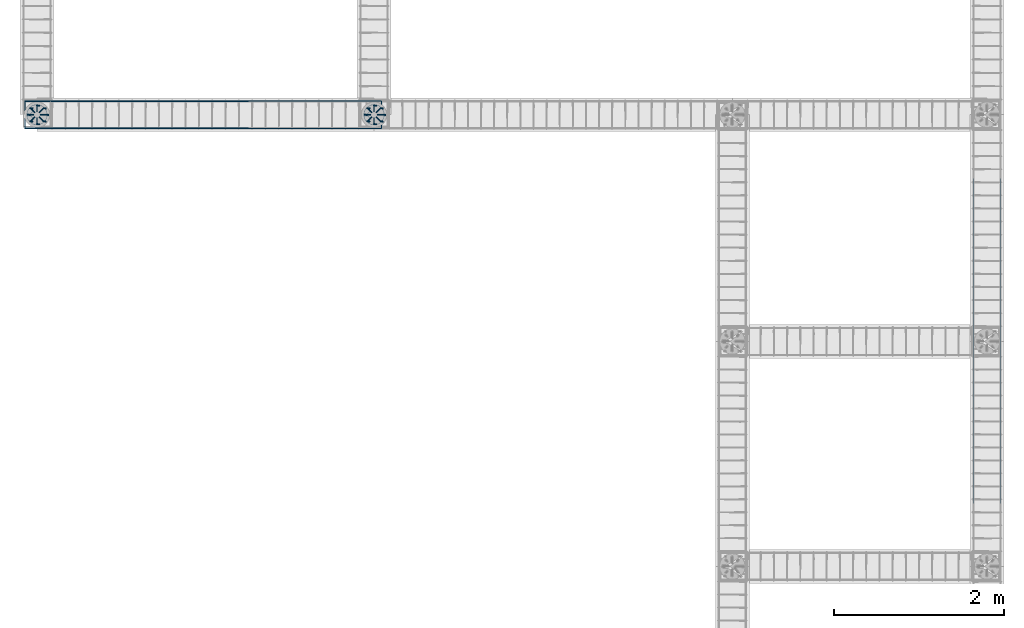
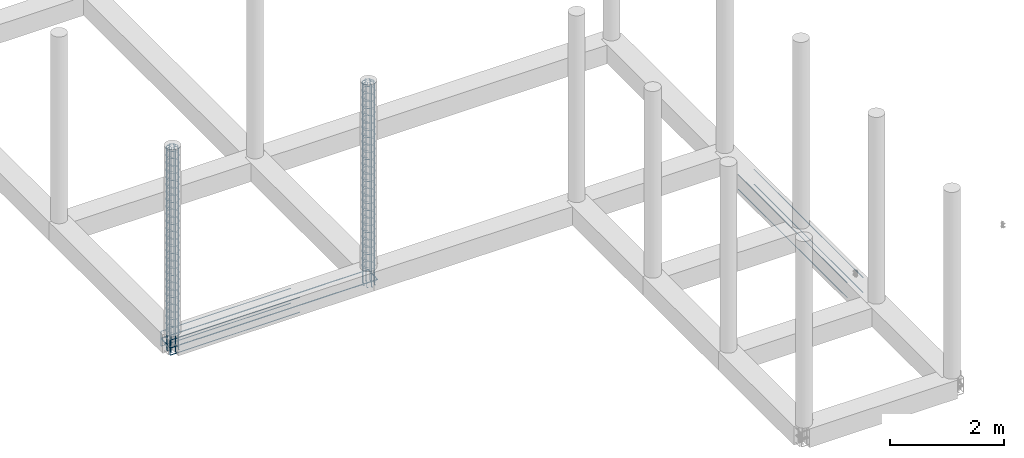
# One storey, part 9 of 20: 9 reinforcing bars.
"""IFC4 building model written with IfcOpenShell, lengths in metres."""

from ifc_helpers import new_model, entity, si_unit, origin_with_axes, place, context, project, spatial, source, transform, mapped, element, save


model = new_model("IFC4")

# Units and contexts
model_context = context("Model", 3, precision=1e-05, world=origin_with_axes())
ifc_project = project(units=[si_unit("LENGTHUNIT", "METRE"), si_unit("AREAUNIT", "SQUARE_METRE"), si_unit("VOLUMEUNIT", "CUBIC_METRE"), si_unit("MASSUNIT", "GRAM", prefix="KILO"), si_unit("TIMEUNIT", "SECOND"), si_unit("PLANEANGLEUNIT", "RADIAN"), si_unit("SOLIDANGLEUNIT", "STERADIAN"), si_unit("THERMODYNAMICTEMPERATUREUNIT", "DEGREE_CELSIUS")], contexts=[model_context])

# Site, building, storey
placement_1 = place(None, origin_with_axes())
site = spatial("IfcSite", under=ifc_project, at=placement_1, Name="Italia", CompositionType="ELEMENT")
building = spatial("IfcBuilding", under=site, at=placement_1, Name="Tettoia", CompositionType="ELEMENT")
storey = spatial("IfcBuildingStorey", under=building, at=placement_1, Name="Storey 0", CompositionType="ELEMENT", Elevation=0.0)

# Reinforcing bars
shared_shape_1 = source(origin_with_axes(), model_context, "Body", "AdvancedSweptSolid", [
    entity("IfcSweptDiskSolid", entity("IfcIndexedPolyCurve", entity("IfcCartesianPointList3D", [[3.99102, 9.96605, -0.375], [3.97714, 9.96787, -0.375], [3.97097, 9.96869, -0.373761], [3.96573, 9.96938, -0.370231], [3.96223, 9.96984, -0.364949], [3.961, 9.97, -0.358718], [3.961, 9.97, 0.5725]]), [entity("IfcLineIndex", [1, 2]), entity("IfcLineIndex", [2, 3]), entity("IfcLineIndex", [3, 4]), entity("IfcLineIndex", [4, 5]), entity("IfcLineIndex", [5, 6]), entity("IfcLineIndex", [6, 7])], False), 0.007),
])
placement_2 = place(placement_1, origin_with_axes())
reinforcing_bar_1_placement = place(placement_2, origin_with_axes())
element("IfcReinforcingBar", 1, at=reinforcing_bar_1_placement, inside=storey, BarLength=0.97063, CrossSectionArea=0.00015394, NominalDiameter=0.014, context=model_context, shape_type="MappedRepresentation", body=[
    mapped(shared_shape_1, transform((0.0319252, -0.077075, 0.0), x_axis=(1.0, 0.0, 0.0), y_axis=(0.0, 1.0, 0.0), z_axis=(0.0, 0.0, 1.0), scale=1.0)),
    mapped(shared_shape_1, transform((0.108955, -0.108981, 0.0), x_axis=(1.0, 0.0, 0.0), y_axis=(0.0, 1.0, 0.0), z_axis=(0.0, 0.0, 1.0), scale=1.0)),
    mapped(shared_shape_1, transform((0.186074, -0.077075, 0.0), x_axis=(1.0, 0.0, 0.0), y_axis=(0.0, 1.0, 0.0), z_axis=(0.0, 0.0, 1.0), scale=1.0)),
    mapped(shared_shape_1, transform((0.217999, 0.0, 0.0), x_axis=(1.0, 0.0, 0.0), y_axis=(0.0, 1.0, 0.0), z_axis=(0.0, 0.0, 1.0), scale=1.0)),
    mapped(shared_shape_1, transform((0.0319252, 0.0770741, 0.0), x_axis=(1.0, 0.0, 0.0), y_axis=(0.0, 1.0, 0.0), z_axis=(0.0, 0.0, 1.0), scale=1.0)),
    mapped(shared_shape_1, transform((0.0, 0.0, 0.0), x_axis=(1.0, 0.0, 0.0), y_axis=(0.0, 1.0, 0.0), z_axis=(0.0, 0.0, 1.0), scale=1.0)),
    mapped(shared_shape_1, transform((0.186074, 0.0770741, 0.0), x_axis=(1.0, 0.0, 0.0), y_axis=(0.0, 1.0, 0.0), z_axis=(0.0, 0.0, 1.0), scale=1.0)),
    mapped(shared_shape_1, transform((0.109, 0.108999, -1.03414e-05), x_axis=(1.0, 0.0, 0.0), y_axis=(0.0, 1.0, 0.0), z_axis=(0.0, 0.0, 1.0), scale=1.0)),
])
shared_shape_2 = source(origin_with_axes(), model_context, "Body", "AdvancedSweptSolid", [
    entity("IfcSweptDiskSolid", entity("IfcIndexedPolyCurve", entity("IfcCartesianPointList3D", [[3.961, 9.97, 0.0], [3.961, 9.97, 3.94], [3.96366, 9.97, 3.95339], [3.97125, 9.97, 3.96475], [3.98261, 9.97, 3.97234], [3.996, 9.97, 3.975], [4.036, 9.97, 3.975]]), [entity("IfcLineIndex", [1, 2]), entity("IfcLineIndex", [2, 3]), entity("IfcLineIndex", [3, 4]), entity("IfcLineIndex", [4, 5]), entity("IfcLineIndex", [5, 6]), entity("IfcLineIndex", [6, 7])], False), 0.007),
])
reinforcing_bar_2_placement = place(placement_2, origin_with_axes())
element("IfcReinforcingBar", 2, at=reinforcing_bar_2_placement, inside=storey, BarLength=4.03463, CrossSectionArea=0.00015394, NominalDiameter=0.014, context=model_context, shape_type="MappedRepresentation", body=[
    mapped(shared_shape_2, transform((13.9978, 14.142, 0.0), x_axis=(-0.70711, 0.707104, 0.0), y_axis=(-0.707104, -0.70711, 0.0), z_axis=(0.0, 0.0, 1.0), scale=1.0)),
    mapped(shared_shape_2, transform((8.14, 19.94, 0.0), x_axis=(-1.0, 0.0, 0.0), y_axis=(0.0, -1.0, 0.0), z_axis=(0.0, 0.0, 1.0), scale=1.0)),
    mapped(shared_shape_2, transform((8.24191, 0.0422106, 0.0), x_axis=(0.707108, 0.707105, 0.0), y_axis=(-0.707105, 0.707108, 0.0), z_axis=(0.0, 0.0, 1.0), scale=1.0)),
    mapped(shared_shape_2, transform((14.04, 5.9, 0.0), x_axis=(0.0, 1.0, 0.0), y_axis=(-1.0, 0.0, 0.0), z_axis=(0.0, 0.0, 1.0), scale=1.0)),
    mapped(shared_shape_2, transform((-5.85777, 5.79805, 0.0), x_axis=(0.707108, -0.707105, 0.0), y_axis=(0.707105, 0.707108, 0.0), z_axis=(0.0, 0.0, 1.0), scale=1.0)),
    mapped(shared_shape_2, transform((0.0, 0.0, 0.0), x_axis=(1.0, 0.0, 0.0), y_axis=(0.0, 1.0, 0.0), z_axis=(0.0, 0.0, 1.0), scale=1.0)),
    mapped(shared_shape_2, transform((-0.101886, 19.8978, 0.0), x_axis=(-0.70711, -0.707104, 0.0), y_axis=(0.707104, -0.70711, 0.0), z_axis=(0.0, 0.0, 1.0), scale=1.0)),
    mapped(shared_shape_2, transform((-5.9, 14.04, 0.0), x_axis=(0.0, -1.0, 0.0), y_axis=(1.0, 0.0, 0.0), z_axis=(0.0, 0.0, 1.0), scale=1.0)),
])
shared_shape_3 = source(origin_with_axes(), model_context, "Body", "AdvancedSweptSolid", [
    entity("IfcSweptDiskSolid", entity("IfcIndexedPolyCurve", entity("IfcCartesianPointList3D", [[4.03909, 9.90856, 0.029], [3.97569, 9.98046, 0.029], [3.96882, 9.98383, 0.029], [3.96197, 9.98426, 0.029], [3.95811, 9.98374, 0.029], [3.95473, 9.98178, 0.029], [3.95237, 9.97867, 0.029], [3.95137, 9.9749, 0.029], [3.9511, 9.97071, 0.029], [3.95111, 9.96929, 0.029], [3.95246, 9.95218, 0.029], [3.95271, 9.95063, 0.029], [3.9567, 9.93401, 0.029], [3.95718, 9.93252, 0.029], [3.96372, 9.91673, 0.029], [3.96443, 9.91533, 0.029], [3.97336, 9.90076, 0.029], [3.97429, 9.89949, 0.029], [3.98538, 9.88649, 0.029], [3.98649, 9.88538, 0.029], [3.99949, 9.87429, 0.029], [4.00076, 9.87336, 0.029], [4.01533, 9.86443, 0.029], [4.01673, 9.86372, 0.029], [4.03252, 9.85718, 0.029], [4.03401, 9.8567, 0.029], [4.05063, 9.85271, 0.029], [4.05218, 9.85246, 0.029], [4.06922, 9.85112, 0.029], [4.07078, 9.85112, 0.029], [4.08782, 9.85246, 0.029], [4.08937, 9.85271, 0.029], [4.10599, 9.8567, 0.029], [4.10748, 9.85718, 0.029], [4.12327, 9.86372, 0.029], [4.12467, 9.86443, 0.029], [4.13924, 9.87336, 0.029], [4.14051, 9.87429, 0.029], [4.15351, 9.88538, 0.029], [4.15462, 9.88649, 0.029], [4.16571, 9.89949, 0.029], [4.16664, 9.90076, 0.029], [4.17557, 9.91533, 0.029], [4.17628, 9.91673, 0.029], [4.18282, 9.93252, 0.029], [4.1833, 9.93401, 0.029], [4.18729, 9.95063, 0.029], [4.18754, 9.95218, 0.029], [4.18888, 9.96922, 0.029], [4.18888, 9.97079, 0.029], [4.18754, 9.98782, 0.029], [4.18729, 9.98937, 0.029], [4.1833, 10.006, 0.029], [4.18282, 10.0075, 0.029], [4.17628, 10.0233, 0.029], [4.17557, 10.0247, 0.029], [4.16664, 10.0392, 0.029], [4.16571, 10.0405, 0.029], [4.15462, 10.0535, 0.029], [4.15351, 10.0546, 0.029], [4.14051, 10.0657, 0.029], [4.13924, 10.0666, 0.029], [4.12467, 10.0756, 0.029], [4.12327, 10.0763, 0.029], [4.10748, 10.0828, 0.029], [4.10599, 10.0833, 0.029], [4.08937, 10.0873, 0.029], [4.08782, 10.0875, 0.029], [4.07078, 10.0889, 0.029], [4.06922, 10.0889, 0.029], [4.05218, 10.0875, 0.029], [4.05063, 10.0873, 0.029], [4.03401, 10.0833, 0.029], [4.03252, 10.0828, 0.029], [4.01673, 10.0763, 0.029], [4.01533, 10.0756, 0.029], [4.00076, 10.0666, 0.029], [3.99949, 10.0657, 0.029], [3.98649, 10.0546, 0.029], [3.98538, 10.0535, 0.029], [3.97429, 10.0405, 0.029], [3.97336, 10.0392, 0.029], [3.96443, 10.0247, 0.029], [3.96372, 10.0233, 0.029], [3.95718, 10.0075, 0.029], [3.9567, 10.006, 0.029], [3.95271, 9.98937, 0.029], [3.95246, 9.98782, 0.029], [3.95111, 9.97071, 0.029], [3.9511, 9.96929, 0.029], [3.95137, 9.9651, 0.029], [3.95237, 9.96133, 0.029], [3.95473, 9.95823, 0.029], [3.95811, 9.95626, 0.029], [3.96197, 9.95574, 0.029], [3.96882, 9.95617, 0.029], [3.97569, 9.95954, 0.029], [4.03909, 10.0314, 0.029]]), [entity("IfcLineIndex", [1, 2]), entity("IfcLineIndex", [2, 3]), entity("IfcLineIndex", [3, 4]), entity("IfcLineIndex", [4, 5]), entity("IfcLineIndex", [5, 6]), entity("IfcLineIndex", [6, 7]), entity("IfcLineIndex", [7, 8]), entity("IfcLineIndex", [8, 9]), entity("IfcLineIndex", [9, 10]), entity("IfcLineIndex", [10, 11]), entity("IfcLineIndex", [11, 12]), entity("IfcLineIndex", [12, 13]), entity("IfcLineIndex", [13, 14]), entity("IfcLineIndex", [14, 15]), entity("IfcLineIndex", [15, 16]), entity("IfcLineIndex", [16, 17]), entity("IfcLineIndex", [17, 18]), entity("IfcLineIndex", [18, 19]), entity("IfcLineIndex", [19, 20]), entity("IfcLineIndex", [20, 21]), entity("IfcLineIndex", [21, 22]), entity("IfcLineIndex", [22, 23]), entity("IfcLineIndex", [23, 24]), entity("IfcLineIndex", [24, 25]), entity("IfcLineIndex", [25, 26]), entity("IfcLineIndex", [26, 27]), entity("IfcLineIndex", [27, 28]), entity("IfcLineIndex", [28, 29]), entity("IfcLineIndex", [29, 30]), entity("IfcLineIndex", [30, 31]), entity("IfcLineIndex", [31, 32]), entity("IfcLineIndex", [32, 33]), entity("IfcLineIndex", [33, 34]), entity("IfcLineIndex", [34, 35]), entity("IfcLineIndex", [35, 36]), entity("IfcLineIndex", [36, 37]), entity("IfcLineIndex", [37, 38]), entity("IfcLineIndex", [38, 39]), entity("IfcLineIndex", [39, 40]), entity("IfcLineIndex", [40, 41]), entity("IfcLineIndex", [41, 42]), entity("IfcLineIndex", [42, 43]), entity("IfcLineIndex", [43, 44]), entity("IfcLineIndex", [44, 45]), entity("IfcLineIndex", [45, 46]), entity("IfcLineIndex", [46, 47]), entity("IfcLineIndex", [47, 48]), entity("IfcLineIndex", [48, 49]), entity("IfcLineIndex", [49, 50]), entity("IfcLineIndex", [50, 51]), entity("IfcLineIndex", [51, 52]), entity("IfcLineIndex", [52, 53]), entity("IfcLineIndex", [53, 54]), entity("IfcLineIndex", [54, 55]), entity("IfcLineIndex", [55, 56]), entity("IfcLineIndex", [56, 57]), entity("IfcLineIndex", [57, 58]), entity("IfcLineIndex", [58, 59]), entity("IfcLineIndex", [59, 60]), entity("IfcLineIndex", [60, 61]), entity("IfcLineIndex", [61, 62]), entity("IfcLineIndex", [62, 63]), entity("IfcLineIndex", [63, 64]), entity("IfcLineIndex", [64, 65]), entity("IfcLineIndex", [65, 66]), entity("IfcLineIndex", [66, 67]), entity("IfcLineIndex", [67, 68]), entity("IfcLineIndex", [68, 69]), entity("IfcLineIndex", [69, 70]), entity("IfcLineIndex", [70, 71]), entity("IfcLineIndex", [71, 72]), entity("IfcLineIndex", [72, 73]), entity("IfcLineIndex", [73, 74]), entity("IfcLineIndex", [74, 75]), entity("IfcLineIndex", [75, 76]), entity("IfcLineIndex", [76, 77]), entity("IfcLineIndex", [77, 78]), entity("IfcLineIndex", [78, 79]), entity("IfcLineIndex", [79, 80]), entity("IfcLineIndex", [80, 81]), entity("IfcLineIndex", [81, 82]), entity("IfcLineIndex", [82, 83]), entity("IfcLineIndex", [83, 84]), entity("IfcLineIndex", [84, 85]), entity("IfcLineIndex", [85, 86]), entity("IfcLineIndex", [86, 87]), entity("IfcLineIndex", [87, 88]), entity("IfcLineIndex", [88, 89]), entity("IfcLineIndex", [89, 90]), entity("IfcLineIndex", [90, 91]), entity("IfcLineIndex", [91, 92]), entity("IfcLineIndex", [92, 93]), entity("IfcLineIndex", [93, 94]), entity("IfcLineIndex", [94, 95]), entity("IfcLineIndex", [95, 96]), entity("IfcLineIndex", [96, 97]), entity("IfcLineIndex", [97, 98])], False), 0.004),
])
reinforcing_bar_3_placement = place(placement_2, origin_with_axes())
element("IfcReinforcingBar", 3, at=reinforcing_bar_3_placement, inside=storey, BarLength=1.00814, CrossSectionArea=5.0265e-05, NominalDiameter=0.008, context=model_context, shape_type="MappedRepresentation", body=[
    mapped(shared_shape_3, transform((0.0, 0.0, 1.8768), x_axis=(1.0, 0.0, 0.0), y_axis=(0.0, 1.0, 0.0), z_axis=(0.0, 0.0, 1.0), scale=1.0)),
    mapped(shared_shape_3, transform((0.0, 0.0, 1.7204), x_axis=(1.0, 0.0, 0.0), y_axis=(0.0, 1.0, 0.0), z_axis=(0.0, 0.0, 1.0), scale=1.0)),
    mapped(shared_shape_3, transform((0.0, 0.0, 1.0948), x_axis=(1.0, 0.0, 0.0), y_axis=(0.0, 1.0, 0.0), z_axis=(0.0, 0.0, 1.0), scale=1.0)),
    mapped(shared_shape_3, transform((0.0, 0.0, 1.4076), x_axis=(1.0, 0.0, 0.0), y_axis=(0.0, 1.0, 0.0), z_axis=(0.0, 0.0, 1.0), scale=1.0)),
    mapped(shared_shape_3, transform((0.0, 0.0, 1.2512), x_axis=(1.0, 0.0, 0.0), y_axis=(0.0, 1.0, 0.0), z_axis=(0.0, 0.0, 1.0), scale=1.0)),
    mapped(shared_shape_3, transform((0.0, 0.0, 1.564), x_axis=(1.0, 0.0, 0.0), y_axis=(0.0, 1.0, 0.0), z_axis=(0.0, 0.0, 1.0), scale=1.0)),
    mapped(shared_shape_3, transform((0.0, 0.0, 0.9384), x_axis=(1.0, 0.0, 0.0), y_axis=(0.0, 1.0, 0.0), z_axis=(0.0, 0.0, 1.0), scale=1.0)),
    mapped(shared_shape_3, transform((0.0, 0.0, 0.782), x_axis=(1.0, 0.0, 0.0), y_axis=(0.0, 1.0, 0.0), z_axis=(0.0, 0.0, 1.0), scale=1.0)),
    mapped(shared_shape_3, transform((0.0, 0.0, 0.1564), x_axis=(1.0, 0.0, 0.0), y_axis=(0.0, 1.0, 0.0), z_axis=(0.0, 0.0, 1.0), scale=1.0)),
    mapped(shared_shape_3, transform((0.0, 0.0, 0.4692), x_axis=(1.0, 0.0, 0.0), y_axis=(0.0, 1.0, 0.0), z_axis=(0.0, 0.0, 1.0), scale=1.0)),
    mapped(shared_shape_3, transform((0.0, 0.0, 0.3128), x_axis=(1.0, 0.0, 0.0), y_axis=(0.0, 1.0, 0.0), z_axis=(0.0, 0.0, 1.0), scale=1.0)),
    mapped(shared_shape_3, transform((0.0, 0.0, 0.6256), x_axis=(1.0, 0.0, 0.0), y_axis=(0.0, 1.0, 0.0), z_axis=(0.0, 0.0, 1.0), scale=1.0)),
    mapped(shared_shape_3, transform((0.0, 0.0, 0.0), x_axis=(1.0, 0.0, 0.0), y_axis=(0.0, 1.0, 0.0), z_axis=(0.0, 0.0, 1.0), scale=1.0)),
    mapped(shared_shape_3, transform((0.0, 0.0, 3.91), x_axis=(1.0, 0.0, 0.0), y_axis=(0.0, 1.0, 0.0), z_axis=(0.0, 0.0, 1.0), scale=1.0)),
    mapped(shared_shape_3, transform((0.0, 0.0, 3.2844), x_axis=(1.0, 0.0, 0.0), y_axis=(0.0, 1.0, 0.0), z_axis=(0.0, 0.0, 1.0), scale=1.0)),
    mapped(shared_shape_3, transform((0.0, 0.0, 3.5972), x_axis=(1.0, 0.0, 0.0), y_axis=(0.0, 1.0, 0.0), z_axis=(0.0, 0.0, 1.0), scale=1.0)),
    mapped(shared_shape_3, transform((0.0, 0.0, 3.4408), x_axis=(1.0, 0.0, 0.0), y_axis=(0.0, 1.0, 0.0), z_axis=(0.0, 0.0, 1.0), scale=1.0)),
    mapped(shared_shape_3, transform((0.0, 0.0, 3.7536), x_axis=(1.0, 0.0, 0.0), y_axis=(0.0, 1.0, 0.0), z_axis=(0.0, 0.0, 1.0), scale=1.0)),
    mapped(shared_shape_3, transform((0.0, 0.0, 3.128), x_axis=(1.0, 0.0, 0.0), y_axis=(0.0, 1.0, 0.0), z_axis=(0.0, 0.0, 1.0), scale=1.0)),
    mapped(shared_shape_3, transform((0.0, 0.0, 2.9716), x_axis=(1.0, 0.0, 0.0), y_axis=(0.0, 1.0, 0.0), z_axis=(0.0, 0.0, 1.0), scale=1.0)),
    mapped(shared_shape_3, transform((0.0, 0.0, 2.346), x_axis=(1.0, 0.0, 0.0), y_axis=(0.0, 1.0, 0.0), z_axis=(0.0, 0.0, 1.0), scale=1.0)),
    mapped(shared_shape_3, transform((0.0, 0.0, 2.6588), x_axis=(1.0, 0.0, 0.0), y_axis=(0.0, 1.0, 0.0), z_axis=(0.0, 0.0, 1.0), scale=1.0)),
    mapped(shared_shape_3, transform((0.0, 0.0, 2.5024), x_axis=(1.0, 0.0, 0.0), y_axis=(0.0, 1.0, 0.0), z_axis=(0.0, 0.0, 1.0), scale=1.0)),
    mapped(shared_shape_3, transform((0.0, 0.0, 2.8152), x_axis=(1.0, 0.0, 0.0), y_axis=(0.0, 1.0, 0.0), z_axis=(0.0, 0.0, 1.0), scale=1.0)),
    mapped(shared_shape_3, transform((0.0, 0.0, 2.1896), x_axis=(1.0, 0.0, 0.0), y_axis=(0.0, 1.0, 0.0), z_axis=(0.0, 0.0, 1.0), scale=1.0)),
    mapped(shared_shape_3, transform((0.0, 0.0, 2.0332), x_axis=(1.0, 0.0, 0.0), y_axis=(0.0, 1.0, 0.0), z_axis=(0.0, 0.0, 1.0), scale=1.0)),
])
shared_shape_4 = source(origin_with_axes(), model_context, "Body", "AdvancedSweptSolid", [
    entity("IfcSweptDiskSolid", entity("IfcIndexedPolyCurve", entity("IfcCartesianPointList3D", [[0.0210233, 9.96605, -0.375], [0.00714308, 9.96787, -0.375], [0.000965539, 9.96869, -0.373761], [-0.00427153, 9.96938, -0.370231], [-0.00777083, 9.96984, -0.364949], [-0.00899962, 9.97, -0.358718], [-0.00899962, 9.97, 0.5725]]), [entity("IfcLineIndex", [1, 2]), entity("IfcLineIndex", [2, 3]), entity("IfcLineIndex", [3, 4]), entity("IfcLineIndex", [4, 5]), entity("IfcLineIndex", [5, 6]), entity("IfcLineIndex", [6, 7])], False), 0.007),
])
reinforcing_bar_4_placement = place(placement_2, origin_with_axes())
element("IfcReinforcingBar", 4, at=reinforcing_bar_4_placement, inside=storey, BarLength=0.97063, CrossSectionArea=0.00015394, NominalDiameter=0.014, context=model_context, shape_type="MappedRepresentation", body=[
    mapped(shared_shape_4, transform((0.218001, 0.0, 0.0), x_axis=(1.0, 0.0, 0.0), y_axis=(0.0, 1.0, 0.0), z_axis=(0.0, 0.0, 1.0), scale=1.0)),
    mapped(shared_shape_4, transform((0.0319363, -0.0770741, 0.0), x_axis=(1.0, 0.0, 0.0), y_axis=(0.0, 1.0, 0.0), z_axis=(0.0, 0.0, 1.0), scale=1.0)),
    mapped(shared_shape_4, transform((0.109, -0.109, 0.0), x_axis=(1.0, 0.0, 0.0), y_axis=(0.0, 1.0, 0.0), z_axis=(0.0, 0.0, 1.0), scale=1.0)),
    mapped(shared_shape_4, transform((0.186085, -0.077075, 0.0), x_axis=(1.0, 0.0, 0.0), y_axis=(0.0, 1.0, 0.0), z_axis=(0.0, 0.0, 1.0), scale=1.0)),
    mapped(shared_shape_4, transform((0.031941, 0.0770741, 0.0), x_axis=(1.0, 0.0, 0.0), y_axis=(0.0, 1.0, 0.0), z_axis=(0.0, 0.0, 1.0), scale=1.0)),
    mapped(shared_shape_4, transform((0.0, 0.0, 0.0), x_axis=(1.0, 0.0, 0.0), y_axis=(0.0, 1.0, 0.0), z_axis=(0.0, 0.0, 1.0), scale=1.0)),
    mapped(shared_shape_4, transform((0.186089, 0.0770741, 0.0), x_axis=(1.0, 0.0, 0.0), y_axis=(0.0, 1.0, 0.0), z_axis=(0.0, 0.0, 1.0), scale=1.0)),
    mapped(shared_shape_4, transform((0.109005, 0.108999, 0.0), x_axis=(1.0, 0.0, 0.0), y_axis=(0.0, 1.0, 0.0), z_axis=(0.0, 0.0, 1.0), scale=1.0)),
])
shared_shape_5 = source(origin_with_axes(), model_context, "Body", "AdvancedSweptSolid", [
    entity("IfcSweptDiskSolid", entity("IfcIndexedPolyCurve", entity("IfcCartesianPointList3D", [[-0.00899962, 9.97, 0.0], [-0.00899962, 9.97, 3.94], [-0.0063354, 9.97, 3.95339], [0.00125165, 9.97, 3.96475], [0.0126065, 9.97, 3.97234], [0.0260004, 9.97, 3.975], [0.0660004, 9.97, 3.975]]), [entity("IfcLineIndex", [1, 2]), entity("IfcLineIndex", [2, 3]), entity("IfcLineIndex", [3, 4]), entity("IfcLineIndex", [4, 5]), entity("IfcLineIndex", [5, 6]), entity("IfcLineIndex", [6, 7])], False), 0.007),
])
reinforcing_bar_5_placement = place(placement_2, origin_with_axes())
element("IfcReinforcingBar", 5, at=reinforcing_bar_5_placement, inside=storey, BarLength=4.03463, CrossSectionArea=0.00015394, NominalDiameter=0.014, context=model_context, shape_type="MappedRepresentation", body=[
    mapped(shared_shape_5, transform((7.22056, 16.9492, 0.0), x_axis=(-0.707108, 0.707106, 0.0), y_axis=(-0.707106, -0.707108, 0.0), z_axis=(0.0, 0.0, 1.0), scale=1.0)),
    mapped(shared_shape_5, transform((0.2, 19.94, 0.0), x_axis=(-1.0, 0.0, 0.0), y_axis=(0.0, -1.0, 0.0), z_axis=(0.0, 0.0, 1.0), scale=1.0)),
    mapped(shared_shape_5, transform((7.07913, 2.84943, 0.0), x_axis=(0.707108, 0.707106, 0.0), y_axis=(-0.707106, 0.707108, 0.0), z_axis=(0.0, 0.0, 1.0), scale=1.0)),
    mapped(shared_shape_5, transform((10.07, 9.87, 0.0), x_axis=(0.0, 1.0, 0.0), y_axis=(-1.0, 0.0, 0.0), z_axis=(0.0, 0.0, 1.0), scale=1.0)),
    mapped(shared_shape_5, transform((-7.02056, 2.99085, 0.0), x_axis=(0.707108, -0.707106, 0.0), y_axis=(0.707106, 0.707108, 0.0), z_axis=(0.0, 0.0, 1.0), scale=1.0)),
    mapped(shared_shape_5, transform((0.0, 0.0, 0.0), x_axis=(1.0, 0.0, 0.0), y_axis=(0.0, 1.0, 0.0), z_axis=(0.0, 0.0, 1.0), scale=1.0)),
    mapped(shared_shape_5, transform((-6.87914, 17.0906, 0.0), x_axis=(-0.707108, -0.707106, 0.0), y_axis=(0.707106, -0.707108, 0.0), z_axis=(0.0, 0.0, 1.0), scale=1.0)),
    mapped(shared_shape_5, transform((-9.87, 10.07, 0.0), x_axis=(0.0, -1.0, 0.0), y_axis=(1.0, 0.0, 0.0), z_axis=(0.0, 0.0, 1.0), scale=1.0)),
])
shared_shape_6 = source(origin_with_axes(), model_context, "Body", "AdvancedSweptSolid", [
    entity("IfcSweptDiskSolid", entity("IfcIndexedPolyCurve", entity("IfcCartesianPointList3D", [[0.0690919, 9.90856, 0.029], [0.00569162, 9.98046, 0.029], [-0.00118195, 9.98383, 0.029], [-0.00802632, 9.98426, 0.029], [-0.0118933, 9.98374, 0.029], [-0.0152671, 9.98178, 0.029], [-0.0176339, 9.97867, 0.029], [-0.0186335, 9.9749, 0.029], [-0.018897, 9.97071, 0.029], [-0.0188859, 9.96929, 0.029], [-0.0175388, 9.95218, 0.029], [-0.0172933, 9.95063, 0.029], [-0.0133037, 9.93401, 0.029], [-0.0128188, 9.93252, 0.029], [-0.00627872, 9.91673, 0.029], [-0.00556632, 9.91533, 0.029], [0.00336316, 9.90076, 0.029], [0.0042855, 9.89949, 0.029], [0.0153847, 9.88649, 0.029], [0.0164943, 9.88538, 0.029], [0.0294895, 9.87429, 0.029], [0.030759, 9.87336, 0.029], [0.0453307, 9.86443, 0.029], [0.0467289, 9.86372, 0.029], [0.062518, 9.85718, 0.029], [0.0640104, 9.8567, 0.029], [0.0806282, 9.85271, 0.029], [0.0821781, 9.85246, 0.029], [0.0992154, 9.85112, 0.029], [0.100785, 9.85112, 0.029], [0.117822, 9.85246, 0.029], [0.119372, 9.85271, 0.029], [0.13599, 9.8567, 0.029], [0.137482, 9.85718, 0.029], [0.153271, 9.86372, 0.029], [0.154669, 9.86443, 0.029], [0.169241, 9.87336, 0.029], [0.17051, 9.87429, 0.029], [0.183506, 9.88538, 0.029], [0.184615, 9.88649, 0.029], [0.195715, 9.89949, 0.029], [0.196637, 9.90076, 0.029], [0.205566, 9.91533, 0.029], [0.206279, 9.91673, 0.029], [0.212819, 9.93252, 0.029], [0.213304, 9.93401, 0.029], [0.217293, 9.95063, 0.029], [0.217539, 9.95218, 0.029], [0.21888, 9.96922, 0.029], [0.21888, 9.97079, 0.029], [0.217539, 9.98782, 0.029], [0.217293, 9.98937, 0.029], [0.213304, 10.006, 0.029], [0.212819, 10.0075, 0.029], [0.206279, 10.0233, 0.029], [0.205566, 10.0247, 0.029], [0.196637, 10.0392, 0.029], [0.195714, 10.0405, 0.029], [0.184615, 10.0535, 0.029], [0.183506, 10.0546, 0.029], [0.170511, 10.0657, 0.029], [0.169241, 10.0666, 0.029], [0.154669, 10.0756, 0.029], [0.153271, 10.0763, 0.029], [0.137482, 10.0828, 0.029], [0.13599, 10.0833, 0.029], [0.119372, 10.0873, 0.029], [0.117822, 10.0875, 0.029], [0.100785, 10.0889, 0.029], [0.0992154, 10.0889, 0.029], [0.0821781, 10.0875, 0.029], [0.0806282, 10.0873, 0.029], [0.0640103, 10.0833, 0.029], [0.0625179, 10.0828, 0.029], [0.0467289, 10.0763, 0.029], [0.0453307, 10.0756, 0.029], [0.0307591, 10.0666, 0.029], [0.0294896, 10.0657, 0.029], [0.0164941, 10.0546, 0.029], [0.0153846, 10.0535, 0.029], [0.00428557, 10.0405, 0.029], [0.00336323, 10.0392, 0.029], [-0.00556631, 10.0247, 0.029], [-0.00627871, 10.0233, 0.029], [-0.0128188, 10.0075, 0.029], [-0.0133037, 10.006, 0.029], [-0.0172933, 9.98937, 0.029], [-0.0175387, 9.98782, 0.029], [-0.0188859, 9.97071, 0.029], [-0.018897, 9.96929, 0.029], [-0.0186335, 9.9651, 0.029], [-0.0176339, 9.96133, 0.029], [-0.0152671, 9.95823, 0.029], [-0.0118933, 9.95626, 0.029], [-0.00802632, 9.95574, 0.029], [-0.00118195, 9.95617, 0.029], [0.00569162, 9.95954, 0.029], [0.0690919, 10.0314, 0.029]]), [entity("IfcLineIndex", [1, 2]), entity("IfcLineIndex", [2, 3]), entity("IfcLineIndex", [3, 4]), entity("IfcLineIndex", [4, 5]), entity("IfcLineIndex", [5, 6]), entity("IfcLineIndex", [6, 7]), entity("IfcLineIndex", [7, 8]), entity("IfcLineIndex", [8, 9]), entity("IfcLineIndex", [9, 10]), entity("IfcLineIndex", [10, 11]), entity("IfcLineIndex", [11, 12]), entity("IfcLineIndex", [12, 13]), entity("IfcLineIndex", [13, 14]), entity("IfcLineIndex", [14, 15]), entity("IfcLineIndex", [15, 16]), entity("IfcLineIndex", [16, 17]), entity("IfcLineIndex", [17, 18]), entity("IfcLineIndex", [18, 19]), entity("IfcLineIndex", [19, 20]), entity("IfcLineIndex", [20, 21]), entity("IfcLineIndex", [21, 22]), entity("IfcLineIndex", [22, 23]), entity("IfcLineIndex", [23, 24]), entity("IfcLineIndex", [24, 25]), entity("IfcLineIndex", [25, 26]), entity("IfcLineIndex", [26, 27]), entity("IfcLineIndex", [27, 28]), entity("IfcLineIndex", [28, 29]), entity("IfcLineIndex", [29, 30]), entity("IfcLineIndex", [30, 31]), entity("IfcLineIndex", [31, 32]), entity("IfcLineIndex", [32, 33]), entity("IfcLineIndex", [33, 34]), entity("IfcLineIndex", [34, 35]), entity("IfcLineIndex", [35, 36]), entity("IfcLineIndex", [36, 37]), entity("IfcLineIndex", [37, 38]), entity("IfcLineIndex", [38, 39]), entity("IfcLineIndex", [39, 40]), entity("IfcLineIndex", [40, 41]), entity("IfcLineIndex", [41, 42]), entity("IfcLineIndex", [42, 43]), entity("IfcLineIndex", [43, 44]), entity("IfcLineIndex", [44, 45]), entity("IfcLineIndex", [45, 46]), entity("IfcLineIndex", [46, 47]), entity("IfcLineIndex", [47, 48]), entity("IfcLineIndex", [48, 49]), entity("IfcLineIndex", [49, 50]), entity("IfcLineIndex", [50, 51]), entity("IfcLineIndex", [51, 52]), entity("IfcLineIndex", [52, 53]), entity("IfcLineIndex", [53, 54]), entity("IfcLineIndex", [54, 55]), entity("IfcLineIndex", [55, 56]), entity("IfcLineIndex", [56, 57]), entity("IfcLineIndex", [57, 58]), entity("IfcLineIndex", [58, 59]), entity("IfcLineIndex", [59, 60]), entity("IfcLineIndex", [60, 61]), entity("IfcLineIndex", [61, 62]), entity("IfcLineIndex", [62, 63]), entity("IfcLineIndex", [63, 64]), entity("IfcLineIndex", [64, 65]), entity("IfcLineIndex", [65, 66]), entity("IfcLineIndex", [66, 67]), entity("IfcLineIndex", [67, 68]), entity("IfcLineIndex", [68, 69]), entity("IfcLineIndex", [69, 70]), entity("IfcLineIndex", [70, 71]), entity("IfcLineIndex", [71, 72]), entity("IfcLineIndex", [72, 73]), entity("IfcLineIndex", [73, 74]), entity("IfcLineIndex", [74, 75]), entity("IfcLineIndex", [75, 76]), entity("IfcLineIndex", [76, 77]), entity("IfcLineIndex", [77, 78]), entity("IfcLineIndex", [78, 79]), entity("IfcLineIndex", [79, 80]), entity("IfcLineIndex", [80, 81]), entity("IfcLineIndex", [81, 82]), entity("IfcLineIndex", [82, 83]), entity("IfcLineIndex", [83, 84]), entity("IfcLineIndex", [84, 85]), entity("IfcLineIndex", [85, 86]), entity("IfcLineIndex", [86, 87]), entity("IfcLineIndex", [87, 88]), entity("IfcLineIndex", [88, 89]), entity("IfcLineIndex", [89, 90]), entity("IfcLineIndex", [90, 91]), entity("IfcLineIndex", [91, 92]), entity("IfcLineIndex", [92, 93]), entity("IfcLineIndex", [93, 94]), entity("IfcLineIndex", [94, 95]), entity("IfcLineIndex", [95, 96]), entity("IfcLineIndex", [96, 97]), entity("IfcLineIndex", [97, 98])], False), 0.004),
])
reinforcing_bar_6_placement = place(placement_2, origin_with_axes())
element("IfcReinforcingBar", 6, at=reinforcing_bar_6_placement, inside=storey, BarLength=1.00814, CrossSectionArea=5.0265e-05, NominalDiameter=0.008, context=model_context, shape_type="MappedRepresentation", body=[
    mapped(shared_shape_6, transform((0.0, 0.0, 1.8768), x_axis=(1.0, 0.0, 0.0), y_axis=(0.0, 1.0, 0.0), z_axis=(0.0, 0.0, 1.0), scale=1.0)),
    mapped(shared_shape_6, transform((0.0, 0.0, 1.7204), x_axis=(1.0, 0.0, 0.0), y_axis=(0.0, 1.0, 0.0), z_axis=(0.0, 0.0, 1.0), scale=1.0)),
    mapped(shared_shape_6, transform((0.0, 0.0, 1.0948), x_axis=(1.0, 0.0, 0.0), y_axis=(0.0, 1.0, 0.0), z_axis=(0.0, 0.0, 1.0), scale=1.0)),
    mapped(shared_shape_6, transform((0.0, 0.0, 1.4076), x_axis=(1.0, 0.0, 0.0), y_axis=(0.0, 1.0, 0.0), z_axis=(0.0, 0.0, 1.0), scale=1.0)),
    mapped(shared_shape_6, transform((0.0, 0.0, 1.2512), x_axis=(1.0, 0.0, 0.0), y_axis=(0.0, 1.0, 0.0), z_axis=(0.0, 0.0, 1.0), scale=1.0)),
    mapped(shared_shape_6, transform((0.0, 0.0, 1.564), x_axis=(1.0, 0.0, 0.0), y_axis=(0.0, 1.0, 0.0), z_axis=(0.0, 0.0, 1.0), scale=1.0)),
    mapped(shared_shape_6, transform((0.0, 0.0, 0.9384), x_axis=(1.0, 0.0, 0.0), y_axis=(0.0, 1.0, 0.0), z_axis=(0.0, 0.0, 1.0), scale=1.0)),
    mapped(shared_shape_6, transform((0.0, 0.0, 0.782), x_axis=(1.0, 0.0, 0.0), y_axis=(0.0, 1.0, 0.0), z_axis=(0.0, 0.0, 1.0), scale=1.0)),
    mapped(shared_shape_6, transform((0.0, 0.0, 0.1564), x_axis=(1.0, 0.0, 0.0), y_axis=(0.0, 1.0, 0.0), z_axis=(0.0, 0.0, 1.0), scale=1.0)),
    mapped(shared_shape_6, transform((0.0, 0.0, 0.4692), x_axis=(1.0, 0.0, 0.0), y_axis=(0.0, 1.0, 0.0), z_axis=(0.0, 0.0, 1.0), scale=1.0)),
    mapped(shared_shape_6, transform((0.0, 0.0, 0.3128), x_axis=(1.0, 0.0, 0.0), y_axis=(0.0, 1.0, 0.0), z_axis=(0.0, 0.0, 1.0), scale=1.0)),
    mapped(shared_shape_6, transform((0.0, 0.0, 0.6256), x_axis=(1.0, 0.0, 0.0), y_axis=(0.0, 1.0, 0.0), z_axis=(0.0, 0.0, 1.0), scale=1.0)),
    mapped(shared_shape_6, transform((0.0, 0.0, 0.0), x_axis=(1.0, 0.0, 0.0), y_axis=(0.0, 1.0, 0.0), z_axis=(0.0, 0.0, 1.0), scale=1.0)),
    mapped(shared_shape_6, transform((0.0, 0.0, 3.91), x_axis=(1.0, 0.0, 0.0), y_axis=(0.0, 1.0, 0.0), z_axis=(0.0, 0.0, 1.0), scale=1.0)),
    mapped(shared_shape_6, transform((0.0, 0.0, 3.2844), x_axis=(1.0, 0.0, 0.0), y_axis=(0.0, 1.0, 0.0), z_axis=(0.0, 0.0, 1.0), scale=1.0)),
    mapped(shared_shape_6, transform((0.0, 0.0, 3.5972), x_axis=(1.0, 0.0, 0.0), y_axis=(0.0, 1.0, 0.0), z_axis=(0.0, 0.0, 1.0), scale=1.0)),
    mapped(shared_shape_6, transform((0.0, 0.0, 3.4408), x_axis=(1.0, 0.0, 0.0), y_axis=(0.0, 1.0, 0.0), z_axis=(0.0, 0.0, 1.0), scale=1.0)),
    mapped(shared_shape_6, transform((0.0, 0.0, 3.7536), x_axis=(1.0, 0.0, 0.0), y_axis=(0.0, 1.0, 0.0), z_axis=(0.0, 0.0, 1.0), scale=1.0)),
    mapped(shared_shape_6, transform((0.0, 0.0, 3.128), x_axis=(1.0, 0.0, 0.0), y_axis=(0.0, 1.0, 0.0), z_axis=(0.0, 0.0, 1.0), scale=1.0)),
    mapped(shared_shape_6, transform((0.0, 0.0, 2.9716), x_axis=(1.0, 0.0, 0.0), y_axis=(0.0, 1.0, 0.0), z_axis=(0.0, 0.0, 1.0), scale=1.0)),
    mapped(shared_shape_6, transform((0.0, 0.0, 2.346), x_axis=(1.0, 0.0, 0.0), y_axis=(0.0, 1.0, 0.0), z_axis=(0.0, 0.0, 1.0), scale=1.0)),
    mapped(shared_shape_6, transform((0.0, 0.0, 2.6588), x_axis=(1.0, 0.0, 0.0), y_axis=(0.0, 1.0, 0.0), z_axis=(0.0, 0.0, 1.0), scale=1.0)),
    mapped(shared_shape_6, transform((0.0, 0.0, 2.5024), x_axis=(1.0, 0.0, 0.0), y_axis=(0.0, 1.0, 0.0), z_axis=(0.0, 0.0, 1.0), scale=1.0)),
    mapped(shared_shape_6, transform((0.0, 0.0, 2.8152), x_axis=(1.0, 0.0, 0.0), y_axis=(0.0, 1.0, 0.0), z_axis=(0.0, 0.0, 1.0), scale=1.0)),
    mapped(shared_shape_6, transform((0.0, 0.0, 2.1896), x_axis=(1.0, 0.0, 0.0), y_axis=(0.0, 1.0, 0.0), z_axis=(0.0, 0.0, 1.0), scale=1.0)),
    mapped(shared_shape_6, transform((0.0, 0.0, 2.0332), x_axis=(1.0, 0.0, 0.0), y_axis=(0.0, 1.0, 0.0), z_axis=(0.0, 0.0, 1.0), scale=1.0)),
])
shared_shape_7 = source(origin_with_axes(), model_context, "Body", "AdvancedSweptSolid", [
    entity("IfcSweptDiskSolid", entity("IfcIndexedPolyCurve", entity("IfcCartesianPointList3D", [[-0.0399999, 9.881, -0.194], [-0.0399999, 10.121, -0.194], [-0.0392387, 10.1248, -0.194], [-0.037071, 10.1281, -0.194], [-0.0338267, 10.1302, -0.194], [-0.0299999, 10.131, -0.194], [4.15, 10.131, -0.194], [4.15383, 10.1302, -0.194], [4.15707, 10.1281, -0.194], [4.15924, 10.1248, -0.194], [4.16, 10.121, -0.194], [4.16, 9.881, -0.194]]), [entity("IfcLineIndex", [1, 2]), entity("IfcLineIndex", [2, 3]), entity("IfcLineIndex", [3, 4]), entity("IfcLineIndex", [4, 5]), entity("IfcLineIndex", [5, 6]), entity("IfcLineIndex", [6, 7]), entity("IfcLineIndex", [7, 8]), entity("IfcLineIndex", [8, 9]), entity("IfcLineIndex", [9, 10]), entity("IfcLineIndex", [10, 11]), entity("IfcLineIndex", [11, 12])], False), 0.006),
])
reinforcing_bar_7_placement = place(placement_2, origin_with_axes())
element("IfcReinforcingBar", 7, at=reinforcing_bar_7_placement, inside=storey, BarLength=4.69121, CrossSectionArea=0.0001131, NominalDiameter=0.012, context=model_context, shape_type="MappedRepresentation", body=[
    mapped(shared_shape_7, transform((0.0, 19.94, -0.4), x_axis=(1.0, 0.0, 0.0), y_axis=(0.0, -1.0, 0.0), z_axis=(0.0, 0.0, -1.0), scale=1.0)),
    mapped(shared_shape_7, transform((0.0, 0.0, 0.0), x_axis=(1.0, 0.0, 0.0), y_axis=(0.0, 1.0, 0.0), z_axis=(0.0, 0.0, 1.0), scale=1.0)),
])
shared_shape_8 = source(origin_with_axes(), model_context, "Body", "AdvancedSweptSolid", [
    entity("IfcSweptDiskSolid", entity("IfcIndexedPolyCurve", entity("IfcCartesianPointList3D", [[-0.0399999, 9.811, -0.109], [-0.0399999, 9.811, -0.349], [-0.0392387, 9.811, -0.352827], [-0.037071, 9.811, -0.356071], [-0.0338267, 9.811, -0.358239], [-0.0299999, 9.811, -0.359], [0.0999999, 9.811, -0.359], [2.01, 9.811, -0.359], [2.59273, 9.811, -0.359]]), [entity("IfcLineIndex", [1, 2]), entity("IfcLineIndex", [2, 3]), entity("IfcLineIndex", [3, 4]), entity("IfcLineIndex", [4, 5]), entity("IfcLineIndex", [5, 6]), entity("IfcLineIndex", [6, 7]), entity("IfcLineIndex", [7, 8]), entity("IfcLineIndex", [8, 9])], False), 0.008),
])
reinforcing_bar_8_placement = place(placement_2, origin_with_axes())
element("IfcReinforcingBar", 8, at=reinforcing_bar_8_placement, inside=storey, BarLength=2.87833, CrossSectionArea=0.00020106, NominalDiameter=0.016, context=model_context, shape_type="MappedRepresentation", body=[
    mapped(shared_shape_8, transform((0.0, 0.318, 0.0), x_axis=(1.0, 0.0, 0.0), y_axis=(0.0, 1.0, 0.0), z_axis=(0.0, 0.0, 1.0), scale=1.0)),
    mapped(shared_shape_8, transform((0.0, 0.0, 0.0), x_axis=(1.0, 0.0, 0.0), y_axis=(0.0, 1.0, 0.0), z_axis=(0.0, 0.0, 1.0), scale=1.0)),
    mapped(shared_shape_8, transform((0.0, 19.94, -0.4), x_axis=(1.0, 0.0, 0.0), y_axis=(0.0, -1.0, 0.0), z_axis=(0.0, 0.0, -1.0), scale=1.0)),
    mapped(shared_shape_8, transform((0.0, 19.622, -0.4), x_axis=(1.0, 0.0, 0.0), y_axis=(0.0, -1.0, 0.0), z_axis=(0.0, 0.0, -1.0), scale=1.0)),
])
shared_shape_9 = source(origin_with_axes(), model_context, "Body", "AdvancedSweptSolid", [
    entity("IfcSweptDiskSolid", entity("IfcIndexedPolyCurve", entity("IfcCartesianPointList3D", [[11.449, 5.39227, -0.359], [11.449, 5.975, -0.359], [11.449, 8.635, -0.359], [11.449, 9.21773, -0.359]]), [entity("IfcLineIndex", [1, 2]), entity("IfcLineIndex", [2, 3]), entity("IfcLineIndex", [3, 4])], False), 0.008),
])
reinforcing_bar_9_placement = place(placement_2, origin_with_axes())
element("IfcReinforcingBar", 9, at=reinforcing_bar_9_placement, inside=storey, BarLength=3.82545, CrossSectionArea=0.00020106, NominalDiameter=0.016, context=model_context, shape_type="MappedRepresentation", body=[
    mapped(shared_shape_9, transform((-0.318, 0.0, 0.0), x_axis=(1.0, 0.0, 0.0), y_axis=(0.0, 1.0, 0.0), z_axis=(0.0, 0.0, 1.0), scale=1.0)),
    mapped(shared_shape_9, transform((0.0, 0.0, 0.0), x_axis=(1.0, 0.0, 0.0), y_axis=(0.0, 1.0, 0.0), z_axis=(0.0, 0.0, 1.0), scale=1.0)),
    mapped(shared_shape_9, transform((-0.318, 0.0, 0.318), x_axis=(1.0, 0.0, 0.0), y_axis=(0.0, 1.0, 0.0), z_axis=(0.0, 0.0, 1.0), scale=1.0)),
    mapped(shared_shape_9, transform((0.0, 0.0, 0.318), x_axis=(1.0, 0.0, 0.0), y_axis=(0.0, 1.0, 0.0), z_axis=(0.0, 0.0, 1.0), scale=1.0)),
])

save(model, "model.ifc")
